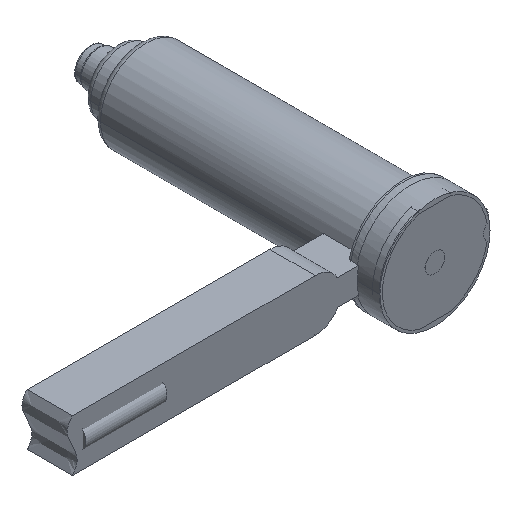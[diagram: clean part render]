
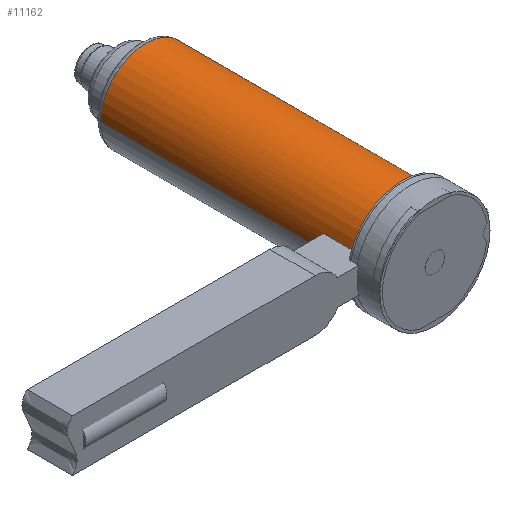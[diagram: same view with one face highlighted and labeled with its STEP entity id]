
A CAD part, isometric view. The second image highlights one B-rep face of the part: STEP entity #11162.
In plain terms, the highlighted cylindrical face has radius 14 mm (diameter 28 mm), a partial arc.
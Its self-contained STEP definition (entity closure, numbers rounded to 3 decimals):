
#10644=CARTESIAN_POINT('',(0.,21.,0.));
#10645=DIRECTION('',(0.,-1.,0.));
#10646=DIRECTION('',(-0.958,0.,0.286));
#10647=AXIS2_PLACEMENT_3D('',#10644,#10645,#10646);
#10649=DIRECTION('',(0.,-1.,0.));
#10650=VECTOR('',#10649,68.289);
#10651=CARTESIAN_POINT('',(-14.,89.289,0.));
#10652=LINE('',#10651,#10650);
#10653=CARTESIAN_POINT('',(0.,89.289,0.));
#10654=DIRECTION('',(0.,1.,0.));
#10655=DIRECTION('',(-1.,0.,0.));
#10656=AXIS2_PLACEMENT_3D('',#10653,#10654,#10655);
#10658=DIRECTION('',(0.,-1.,0.));
#10659=VECTOR('',#10658,79.289);
#10660=CARTESIAN_POINT('',(14.,89.289,0.));
#10661=LINE('',#10660,#10659);
#10662=DIRECTION('',(0.,-1.,0.));
#10663=VECTOR('',#10662,11.);
#10664=CARTESIAN_POINT('',(-13.416,21.,4.));
#10665=LINE('',#10664,#10663);
#10823=CARTESIAN_POINT('',(0.,10.,0.));
#10824=DIRECTION('',(0.,1.,0.));
#10825=DIRECTION('',(-0.958,0.,0.286));
#10826=AXIS2_PLACEMENT_3D('',#10823,#10824,#10825);
#10934=CARTESIAN_POINT('',(-14.,89.289,0.));
#10936=VERTEX_POINT('',#10934);
#10952=CARTESIAN_POINT('',(14.,89.289,0.));
#10954=VERTEX_POINT('',#10952);
#10955=CARTESIAN_POINT('',(14.,10.,0.));
#10956=VERTEX_POINT('',#10955);
#10985=CARTESIAN_POINT('',(-14.,21.,0.));
#10987=VERTEX_POINT('',#10985);
#10993=CARTESIAN_POINT('',(-13.416,21.,4.));
#10994=VERTEX_POINT('',#10993);
#10999=CARTESIAN_POINT('',(-13.416,10.,4.));
#11000=VERTEX_POINT('',#10999);
#11146=CARTESIAN_POINT('',(0.,111.603,0.));
#11147=DIRECTION('',(0.,-1.,0.));
#11148=DIRECTION('',(-1.,0.,0.));
#11149=AXIS2_PLACEMENT_3D('',#11146,#11147,#11148);
#11150=CYLINDRICAL_SURFACE('',#11149,14.);
#11151=ORIENTED_EDGE('',*,*,#11128,.T.);
#11152=ORIENTED_EDGE('',*,*,#11117,.F.);
#11154=ORIENTED_EDGE('',*,*,#11153,.T.);
#11155=ORIENTED_EDGE('',*,*,#11113,.T.);
#11157=ORIENTED_EDGE('',*,*,#11156,.F.);
#11159=ORIENTED_EDGE('',*,*,#11158,.F.);
#11160=EDGE_LOOP('',(#11151,#11152,#11154,#11155,#11157,#11159));
#11161=FACE_OUTER_BOUND('',#11160,.F.);
#11162=ADVANCED_FACE('',(#11161),#11150,.T.);
#10648=CIRCLE('',#10647,14.);
#10657=CIRCLE('',#10656,14.);
#10827=CIRCLE('',#10826,14.);
#11113=EDGE_CURVE('',#10954,#10956,#10661,.T.);
#11117=EDGE_CURVE('',#10936,#10987,#10652,.T.);
#11128=EDGE_CURVE('',#10994,#10987,#10648,.T.);
#11153=EDGE_CURVE('',#10936,#10954,#10657,.T.);
#11156=EDGE_CURVE('',#11000,#10956,#10827,.T.);
#11158=EDGE_CURVE('',#10994,#11000,#10665,.T.);
